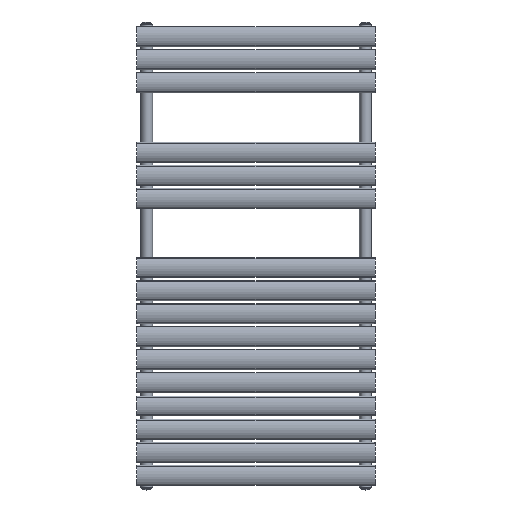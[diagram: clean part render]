
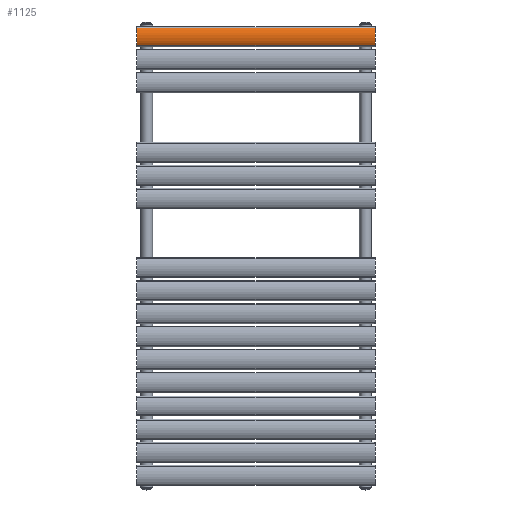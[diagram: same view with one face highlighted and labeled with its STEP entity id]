
A CAD part, top view. The second image highlights one B-rep face of the part: STEP entity #1125.
In plain terms, the highlighted cylindrical face has radius 39.5 mm (diameter 79 mm), a partial arc.
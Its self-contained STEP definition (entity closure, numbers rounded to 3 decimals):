
#131=LINE('',#3010,#163);
#132=LINE('',#3014,#164);
#163=VECTOR('',#1402,10.);
#164=VECTOR('',#1405,10.);
#243=CIRCLE('',#1238,39.5);
#244=CIRCLE('',#1239,39.5);
#369=FACE_OUTER_BOUND('',#480,.T.);
#480=EDGE_LOOP('',(#926,#927,#928,#929));
#640=VERTEX_POINT('',#3008);
#641=VERTEX_POINT('',#3009);
#642=VERTEX_POINT('',#3011);
#643=VERTEX_POINT('',#3013);
#747=EDGE_CURVE('',#640,#641,#131,.T.);
#748=EDGE_CURVE('',#642,#640,#243,.T.);
#749=EDGE_CURVE('',#643,#642,#132,.T.);
#750=EDGE_CURVE('',#641,#643,#244,.T.);
#926=ORIENTED_EDGE('',*,*,#747,.F.);
#927=ORIENTED_EDGE('',*,*,#748,.F.);
#928=ORIENTED_EDGE('',*,*,#749,.F.);
#929=ORIENTED_EDGE('',*,*,#750,.F.);
#1090=CYLINDRICAL_SURFACE('',#1237,39.5);
#1125=ADVANCED_FACE('',(#369),#1090,.T.);
#1237=AXIS2_PLACEMENT_3D('',#3007,#1400,#1401);
#1238=AXIS2_PLACEMENT_3D('',#3012,#1403,#1404);
#1239=AXIS2_PLACEMENT_3D('',#3015,#1406,#1407);
#1400=DIRECTION('center_axis',(0.,0.,1.));
#1401=DIRECTION('ref_axis',(-0.552,-0.834,0.));
#1402=DIRECTION('',(0.,0.,-1.));
#1403=DIRECTION('center_axis',(0.,0.,1.));
#1404=DIRECTION('ref_axis',(-0.552,-0.834,0.));
#1405=DIRECTION('',(0.,0.,1.));
#1406=DIRECTION('center_axis',(0.,0.,-1.));
#1407=DIRECTION('ref_axis',(-0.552,-0.834,0.));
#3007=CARTESIAN_POINT('Origin',(0.,14.5,0.));
#3008=CARTESIAN_POINT('',(21.816,-18.429,300.));
#3009=CARTESIAN_POINT('',(21.816,-18.429,-300.));
#3010=CARTESIAN_POINT('',(21.816,-18.429,0.));
#3011=CARTESIAN_POINT('',(-21.816,-18.429,300.));
#3012=CARTESIAN_POINT('Origin',(0.,14.5,300.));
#3013=CARTESIAN_POINT('',(-21.816,-18.429,-300.));
#3014=CARTESIAN_POINT('',(-21.816,-18.429,0.));
#3015=CARTESIAN_POINT('Origin',(0.,14.5,-300.));
